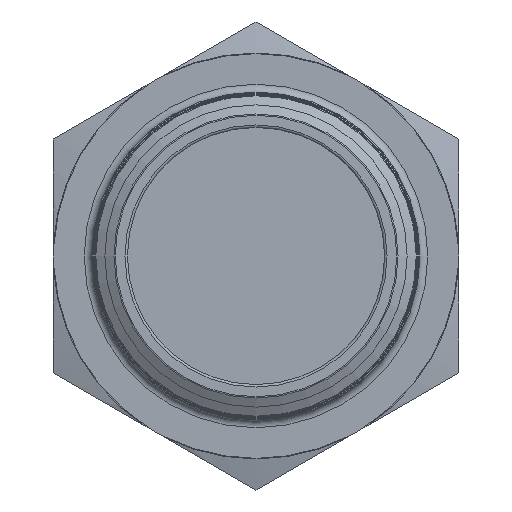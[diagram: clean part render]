
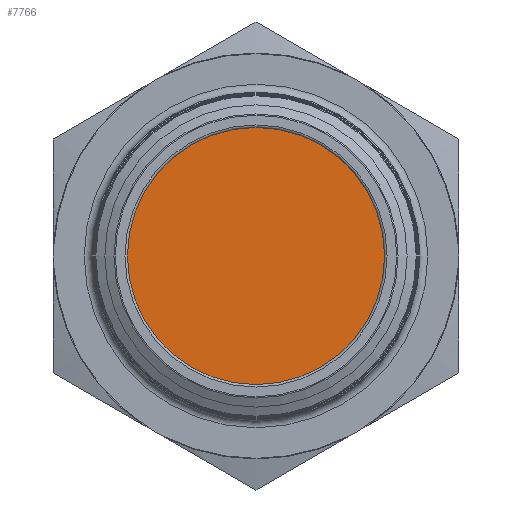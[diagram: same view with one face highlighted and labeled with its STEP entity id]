
A CAD part, left-side view. The second image highlights one B-rep face of the part: STEP entity #7766.
In plain terms, the highlighted planar face has unit normal (-1, 0, 0).
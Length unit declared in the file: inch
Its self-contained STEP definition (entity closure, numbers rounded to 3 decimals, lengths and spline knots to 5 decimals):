
#174=CIRCLE('',#8194,0.5155);
#1964=ORIENTED_EDGE('',*,*,#2699,.T.);
#2699=EDGE_CURVE('',#3211,#3211,#174,.T.);
#3211=VERTEX_POINT('',#11681);
#4398=EDGE_LOOP('',(#1964));
#4844=FACE_BOUND('',#4398,.T.);
#5062=PLANE('',#8208);
#7766=ADVANCED_FACE('',(#4844),#5062,.T.);
#8194=AXIS2_PLACEMENT_3D('',#11680,#9422,#9423);
#8208=AXIS2_PLACEMENT_3D('',#11702,#9456,#9457);
#9422=DIRECTION('',(-1.,0.,0.));
#9423=DIRECTION('',(0.,0.,1.));
#9456=DIRECTION('',(-1.,0.,0.));
#9457=DIRECTION('',(0.,0.,1.));
#11680=CARTESIAN_POINT('',(0.1893,0.,0.));
#11681=CARTESIAN_POINT('',(0.1893,0.,0.5155));
#11702=CARTESIAN_POINT('',(0.1893,0.,0.29025));
